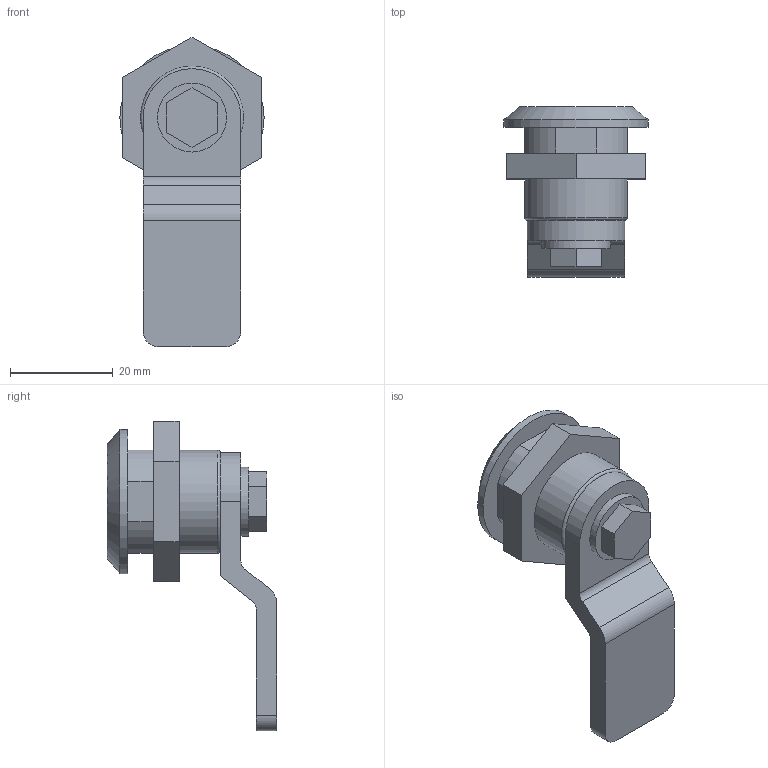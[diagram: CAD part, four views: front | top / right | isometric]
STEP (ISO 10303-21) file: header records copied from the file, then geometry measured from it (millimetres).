
FILE_DESCRIPTION (( 'STEP AP214' ), '1' );
FILE_NAME ('F30025.step', '2024-12-03T16:16:10', ( '' ), ( '' ), 'SwSTEP 2.0', 'SolidWorks 2023', '' );
FILE_SCHEMA (( 'AUTOMOTIVE_DESIGN' ));
Length unit declared in the file: millimetre
Products named in the file (1): F30025
Bounding box: 28 x 33 x 60.09 mm (x, y, z)
Volume: 13965.8 mm3; surface area: 5734.1 mm2
Topology: 1 solids, 1 shells, 57 faces, 140 edges, 92 vertices
Faces by surface type: plane 37, cylinder 18, cone 1, torus 1
Full cylindrical faces by diameter (mm): 3 x1, 13.4 x1, 20 x1, 28 x1
Entity records: 1664 total; most frequent: DIRECTION 287, CARTESIAN_POINT 282, ORIENTED_EDGE 266, EDGE_CURVE 133, AXIS2_PLACEMENT_3D 96, VECTOR 95, LINE 95, VERTEX_POINT 91
